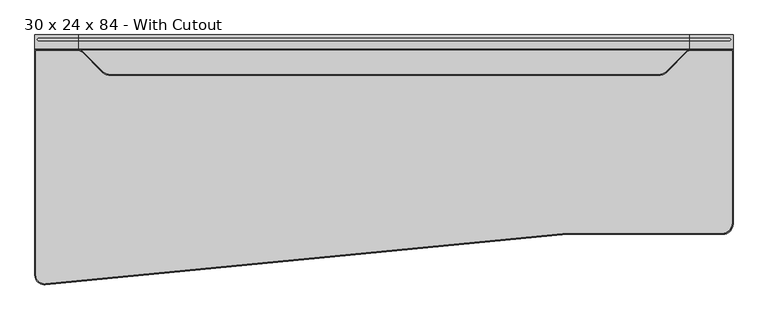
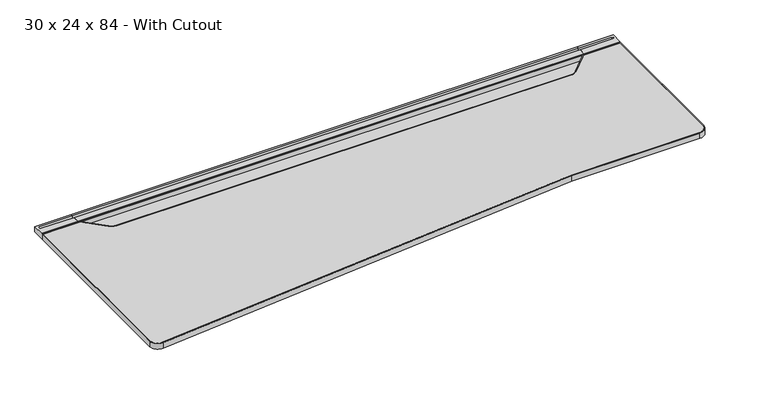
"""IFC4 building model written with IfcOpenShell, lengths in millimetres: furniture geometry, Steelcase - C Scape - Desking - Left Hand Transition - Non Sliding : 30 x 24 x 84 - With Cutout."""

from ifc_helpers import new_model, si_unit, point, frame, frame_2d, origin, place, context, project, spatial, polyline, circle_curve, trimmed, segment, composite_curve, outline, extrude, faceted_brep, source, transform, mapped, element, save
from ifc_brep_helpers import plane_surface, cylinder_surface, revolved_surface, advanced_brep


def furniture_30_x_24_x_84_with_cutout_60a7b00e(model_context):
    return source(origin(), model_context, "Body", "SolidModel", [
        advanced_brep(
        [(-173.3677124, -45.3135132, 703.3768), (-173.3677124, -4.0331902, 703.3768), (-173.3677124, -3.2278472, 705.1038636), (-173.3677124, 0.0, 705.1038636), (-173.3677124, 0.0, 725.932), (-173.3677124, -8.5111084, 725.932), (-173.3677124, -8.5111084, 713.486), (-173.3677124, -19.3290527, 713.486), (-173.3677124, -19.3290527, 725.932), (-173.3677124, -42.7750923, 725.932), (-173.3677124, -42.7750923, 722.4268341), (-173.3677124, -45.3135132, 722.4268341), (-306.3875, -45.3135132, 703.3768), (-306.3875, -45.3135132, 722.4268341), (-306.3875, -42.7750923, 722.4268341), (-306.3875, -42.7750923, 725.932), (-306.3875, 0.0, 725.932), (-306.3875, 0.0, 705.1038636), (-306.3875, -3.2278472, 705.1038636), (-306.3875, -4.0331902, 703.3768), (-294.6254272, -19.3290527, 725.932), (-294.6254272, -8.5111084, 725.932), (-294.6254272, -8.5111084, 713.486), (-294.6254272, -19.3290527, 713.486)],
        [
            (0, 1),
            (1, 2),
            (2, 3),
            (3, 4),
            (4, 5),
            (5, 6),
            (6, 7),
            (7, 8),
            (8, 9),
            (9, 10),
            (10, 11),
            (11, 0),
            (12, 13),
            (13, 14),
            (14, 15),
            (15, 16),
            (16, 17),
            (17, 18),
            (18, 19),
            (19, 12),
            (0, 12),
            (19, 1),
            (18, 2),
            (17, 3),
            (16, 4),
            (15, 9),
            (8, 20),
            (20, 21, circle_curve(frame((-294.6254272, -13.9200806, 725.932), z_axis=(0.0, 0.0, -1.0), x_axis=(1.0, 0.0, 0.0)), 5.4089722)),
            (21, 5),
            (14, 10),
            (13, 11),
            (6, 22),
            (22, 23, circle_curve(frame((-294.6254272, -13.9200806, 713.486), z_axis=(0.0, 0.0, 1.0), x_axis=(1.0, 0.0, 0.0)), 5.4089722)),
            (23, 7),
            (21, 22),
            (20, 23),
        ],
        [
            plane_surface(frame((-173.3677124, -45.3135132, 703.3768), z_axis=(1.0, 0.0, 0.0), x_axis=(0.0, 1.0, 0.0))),
            plane_surface(frame((-306.3875, -45.3135132, 703.3768), z_axis=(-1.0, 0.0, 0.0), x_axis=(0.0, -1.0, 0.0))),
            plane_surface(frame((-173.3677124, -45.3135132, 703.3768), z_axis=(0.0, 0.0, -1.0), x_axis=(-1.0, 0.0, 0.0))),
            plane_surface(frame((-173.3677124, -4.0331902, 703.3768), z_axis=(0.0, 0.9063077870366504, -0.4226182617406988), x_axis=(-1.0, 0.0, 0.0))),
            plane_surface(frame((-173.3677124, -3.2278472, 705.1038636), z_axis=(0.0, 0.0, -1.0), x_axis=(-1.0, 0.0, 0.0))),
            plane_surface(frame((-173.3677124, 0.0, 705.1038636), z_axis=(0.0, 1.0, 0.0), x_axis=(-1.0, 0.0, 0.0))),
            plane_surface(frame((-173.3677124, 0.0, 725.932), z_axis=(0.0, 0.0, 1.0), x_axis=(-1.0, 0.0, 0.0))),
            plane_surface(frame((-173.3677124, -42.7750923, 725.932), z_axis=(0.0, -1.0, 0.0), x_axis=(-1.0, 0.0, 0.0))),
            plane_surface(frame((-173.3677124, -42.7750923, 722.4268341), z_axis=(0.0, 0.0, 1.0), x_axis=(-1.0, 0.0, 0.0))),
            plane_surface(frame((-173.3677124, -45.3135132, 722.4268341), z_axis=(0.0, -1.0, 0.0), x_axis=(-1.0, 0.0, 0.0))),
            plane_surface(frame((-294.6254272, -8.5111084, 713.486), z_axis=(0.0, 0.0, 1.0), x_axis=(1.0, 0.0, 0.0))),
            plane_surface(frame((-173.3677124, -8.5111084, 731.2180541), z_axis=(0.0, -1.0, 0.0), x_axis=(0.0, 0.0, -1.0))),
            revolved_surface(polyline([(-289.216455, -13.9200806, 725.932), (-289.216455, -13.9200806, 713.486)]), (-294.6254272, -13.9200806, 713.486), (0.0, 0.0, 1.0)),
            plane_surface(frame((-294.6254272, -19.3290527, 731.2180541), z_axis=(0.0, 1.0, 0.0), x_axis=(0.0, 0.0, -1.0))),
        ],
        [
            (0, [[1, 2, 3, 4, 5, 6, 7, 8, 9, 10, 11, 12]]),
            (1, [[13, 14, 15, 16, 17, 18, 19, 20]]),
            (2, [[-1, 21, -20, 22]]),
            (3, [[-2, -22, -19, 23]]),
            (4, [[-3, -23, -18, 24]]),
            (5, [[-4, -24, -17, 25]]),
            (6, [[-16, 26, -9, 27, 28, 29, -5, -25]]),
            (7, [[-10, -26, -15, 30]]),
            (8, [[-11, -30, -14, 31]]),
            (9, [[-12, -31, -13, -21]]),
            (10, [[32, 33, 34, -7]]),
            (11, [[-32, -6, -29, 35]]),
            (12, [[-33, -35, -28, 36]]),
            (13, [[-34, -36, -27, -8]]),
        ],
    ),
        faceted_brep([(-287.3367368, -565.0752923, 700.7093833), (-273.0616272, -565.0752923, 693.4200291), (-191.6224121, -565.0752923, 693.4200291), (-189.0018699, -565.0752923, 679.3263935), (-173.3677124, -565.0752923, 679.3263935), (-173.3677124, -565.0752923, 703.3768), (-287.3367368, -565.0752923, 703.3768), (-287.3367368, -4.0331902, 700.7093833), (-287.3367368, -4.0331902, 703.3768), (-173.3677124, -4.0331902, 703.3768), (-173.3677124, -4.0331902, 629.3866), (-179.7161653, -4.0331902, 629.3866), (-191.6224121, -4.0331902, 693.4200291), (-273.0616272, -4.0331902, 693.4200291), (-179.7161653, -364.1172546, 629.3866), (-186.8365949, -376.5599397, 667.6812472), (-173.3677124, -364.1172546, 629.3866), (-173.3677124, -376.5599397, 667.6812472)], [[[0, 1, 2, 3, 4, 5, 6]], [[7, 8, 9, 10, 11, 12, 13]], [[1, 0, 7, 13]], [[2, 1, 13, 12]], [[12, 11, 14, 15, 3, 2]], [[11, 10, 16, 14]], [[10, 9, 5, 4, 17, 16]], [[6, 5, 9, 8]], [[0, 6, 8, 7]], [[15, 17, 4, 3]], [[17, 15, 14, 16]]]),
        extrude(outline(composite_curve([segment(polyline([(-293.5216187, 657.3775839), (-559.0022133, 680.1371551)]), True, "CONTINUOUS"), segment(trimmed(circle_curve(frame_2d((-558.7581271, 682.9843154)), 2.8576039), [point((-559.0022133, 680.1371551))], [point((-561.5383043, 682.3236226))], False, "CARTESIAN"), True, "CONTINUOUS"), segment(polyline([(-561.5383043, 682.3236226), (-566.0887542, 701.4717905), (-557.8334441, 701.4717905), (-557.8334441, 703.3768), (-442.6683806, 703.3768), (-442.6683806, 696.3917953), (-318.2108611, 696.3917953), (-318.2108611, 703.3768), (-293.5216187, 703.3768), (-293.5216187, 657.3775839)]), True, "CONTINUOUS")], self_intersect=False)), frame((877.824, 0.0, 0.0), z_axis=(1.0, 0.0, 0.0), x_axis=(0.0, 1.0, 0.0)), (0.0, 0.0, 1.0), 73.152),
        advanced_brep(
        [(1694.1927124, -45.3135132, 703.3768), (1694.1927124, -45.3135132, 722.4268341), (1694.1927124, -42.7750923, 722.4268341), (1694.1927124, -42.7750923, 725.932), (1694.1927124, -19.3290527, 725.932), (1694.1927124, -19.3290527, 713.486), (1694.1927124, -8.5111084, 713.486), (1694.1927124, -8.5111084, 725.932), (1694.1927124, 0.0, 725.932), (1694.1927124, 0.0, 705.1038636), (1694.1927124, -3.2278472, 705.1038636), (1694.1927124, -4.0331902, 703.3768), (1827.2125, -45.3135132, 703.3768), (1827.2125, -4.0331902, 703.3768), (1827.2125, -3.2278472, 705.1038636), (1827.2125, 0.0, 705.1038636), (1827.2125, 0.0, 725.932), (1827.2125, -42.7750923, 725.932), (1827.2125, -42.7750923, 722.4268341), (1827.2125, -45.3135132, 722.4268341), (1815.4504272, -8.5111084, 725.932), (1815.4504272, -19.3290527, 725.932), (1815.4504272, -19.3290527, 713.486), (1815.4504272, -8.5111084, 713.486)],
        [
            (0, 1),
            (1, 2),
            (2, 3),
            (3, 4),
            (4, 5),
            (5, 6),
            (6, 7),
            (7, 8),
            (8, 9),
            (9, 10),
            (10, 11),
            (11, 0),
            (12, 13),
            (13, 14),
            (14, 15),
            (15, 16),
            (16, 17),
            (17, 18),
            (18, 19),
            (19, 12),
            (11, 13),
            (12, 0),
            (10, 14),
            (9, 15),
            (8, 16),
            (7, 20),
            (20, 21, circle_curve(frame((1815.4504272, -13.9200806, 725.932), z_axis=(0.0, 0.0, -1.0), x_axis=(-1.0, 0.0, 0.0)), 5.4089722)),
            (21, 4),
            (3, 17),
            (2, 18),
            (1, 19),
            (5, 22),
            (22, 23, circle_curve(frame((1815.4504272, -13.9200806, 713.486), z_axis=(0.0, 0.0, 1.0), x_axis=(-1.0, 0.0, 0.0)), 5.4089722)),
            (23, 6),
            (23, 20),
            (22, 21),
        ],
        [
            plane_surface(frame((1694.1927124, -45.3135132, 703.3768), z_axis=(-1.0, 0.0, 0.0), x_axis=(0.0, 1.0, 0.0))),
            plane_surface(frame((1827.2125, -45.3135132, 703.3768), z_axis=(1.0, 0.0, 0.0), x_axis=(0.0, -1.0, 0.0))),
            plane_surface(frame((1694.1927124, -45.3135132, 703.3768), z_axis=(0.0, 0.0, -1.0), x_axis=(1.0, 0.0, 0.0))),
            plane_surface(frame((1694.1927124, -4.0331902, 703.3768), z_axis=(0.0, 0.9063077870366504, -0.4226182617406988), x_axis=(1.0, 0.0, 0.0))),
            plane_surface(frame((1694.1927124, -3.2278472, 705.1038636), z_axis=(0.0, 0.0, -1.0), x_axis=(1.0, 0.0, 0.0))),
            plane_surface(frame((1694.1927124, 0.0, 705.1038636), z_axis=(0.0, 1.0, 0.0), x_axis=(1.0, 0.0, 0.0))),
            plane_surface(frame((1694.1927124, 0.0, 725.932), z_axis=(0.0, 0.0, 1.0), x_axis=(1.0, 0.0, 0.0))),
            plane_surface(frame((1694.1927124, -42.7750923, 725.932), z_axis=(0.0, -1.0, 0.0), x_axis=(1.0, 0.0, 0.0))),
            plane_surface(frame((1694.1927124, -42.7750923, 722.4268341), z_axis=(0.0, 0.0, 1.0), x_axis=(1.0, 0.0, 0.0))),
            plane_surface(frame((1694.1927124, -45.3135132, 722.4268341), z_axis=(0.0, -1.0, 0.0), x_axis=(1.0, 0.0, 0.0))),
            plane_surface(frame((1815.4504272, -8.5111084, 713.486), z_axis=(0.0, 0.0, 1.0), x_axis=(-1.0, 0.0, 0.0))),
            plane_surface(frame((1694.1927124, -8.5111084, 731.2180541), z_axis=(0.0, -1.0, 0.0), x_axis=(0.0, 0.0, -1.0))),
            revolved_surface(polyline([(1810.0414549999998, -13.9200806, 725.932), (1810.0414549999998, -13.9200806, 713.486)]), (1815.4504272, -13.9200806, 713.486), (0.0, 0.0, 1.0)),
            plane_surface(frame((1815.4504272, -19.3290527, 731.2180541), z_axis=(0.0, 1.0, 0.0), x_axis=(0.0, 0.0, -1.0))),
        ],
        [
            (0, [[1, 2, 3, 4, 5, 6, 7, 8, 9, 10, 11, 12]]),
            (1, [[13, 14, 15, 16, 17, 18, 19, 20]]),
            (2, [[21, -13, 22, -12]]),
            (3, [[23, -14, -21, -11]]),
            (4, [[24, -15, -23, -10]]),
            (5, [[25, -16, -24, -9]]),
            (6, [[-25, -8, 26, 27, 28, -4, 29, -17]]),
            (7, [[30, -18, -29, -3]]),
            (8, [[31, -19, -30, -2]]),
            (9, [[-22, -20, -31, -1]]),
            (10, [[-6, 32, 33, 34]]),
            (11, [[35, -26, -7, -34]]),
            (12, [[36, -27, -35, -33]]),
            (13, [[-5, -28, -36, -32]]),
        ],
    ),
        faceted_brep([(1808.1617368, -565.0752923, 700.7093833), (1808.1617368, -565.0752923, 703.3768), (1694.1927124, -565.0752923, 703.3768), (1694.1927124, -565.0752923, 679.3263935), (1709.8268699, -565.0752923, 679.3263935), (1712.4474121, -565.0752923, 693.4200291), (1793.8866272, -565.0752923, 693.4200291), (1808.1617368, -4.0331902, 700.7093833), (1793.8866272, -4.0331902, 693.4200291), (1712.4474121, -4.0331902, 693.4200291), (1700.5411653, -4.0331902, 629.3866), (1694.1927124, -4.0331902, 629.3866), (1694.1927124, -4.0331902, 703.3768), (1808.1617368, -4.0331902, 703.3768), (1707.6615949, -376.5599397, 667.6812472), (1700.5411653, -364.1172546, 629.3866), (1694.1927124, -364.1172546, 629.3866), (1694.1927124, -376.5599397, 667.6812472)], [[[0, 1, 2, 3, 4, 5, 6]], [[7, 8, 9, 10, 11, 12, 13]], [[6, 8, 7, 0]], [[5, 9, 8, 6]], [[9, 5, 4, 14, 15, 10]], [[10, 15, 16, 11]], [[11, 16, 17, 3, 2, 12]], [[1, 13, 12, 2]], [[0, 7, 13, 1]], [[14, 4, 3, 17]], [[17, 16, 15, 14]]]),
        extrude(outline(polyline([(-8.5111084, 725.932), (0.0, 725.932), (0.0, 705.1038636), (-3.2278472, 705.1038636), (-4.0331902, 703.3768), (-45.3135132, 703.3768), (-45.3135132, 722.4268341), (-42.7750923, 722.4268341), (-42.7750923, 725.932), (-19.3290527, 725.932), (-19.3290527, 713.486), (-8.5111084, 713.486), (-8.5111084, 725.932)])), frame((-173.3677124, 0.0, 0.0), z_axis=(1.0, 0.0, 0.0), x_axis=(0.0, 1.0, 0.0)), (0.0, 0.0, 1.0), 1867.5604248),
        extrude(outline(polyline([(1694.1927124, -4.0331902), (1694.1927124, -293.5216187), (-173.3677124, -293.5216187), (-173.3677124, -4.0331902), (1694.1927124, -4.0331902)])), frame((0.0, 0.0, 629.3866), z_axis=(0.0, 0.0, 1.0), x_axis=(1.0, 0.0, 0.0)), (0.0, 0.0, 1.0), 73.9902),
        extrude(outline(composite_curve([segment(polyline([(-303.3395, -48.3660689), (-173.9627392, -48.3660689)]), True, "CONTINUOUS"), segment(trimmed(circle_curve(frame_2d((-173.9627392, -64.9605938)), 16.5945249), [point((-173.9627392, -48.3660689))], [point((-162.2286419, -53.2264889))], False, "CARTESIAN"), True, "CONTINUOUS"), segment(polyline([(-162.2286419, -53.2264889), (-102.1005392, -113.3545523)]), True, "CONTINUOUS"), segment(trimmed(circle_curve(frame_2d((-75.1597796, -86.4137752)), 38.1), [point((-102.1005392, -113.3545523))], [point((-75.1597796, -124.5137752))], True, "CARTESIAN"), True, "CONTINUOUS"), segment(polyline([(-75.1597796, -124.5137752), (1599.1598212, -124.5137752)]), True, "CONTINUOUS"), segment(trimmed(circle_curve(frame_2d((1599.1598212, -86.4137752)), 38.1), [point((1599.1598212, -124.5137752))], [point((1626.1005905, -113.3545426))], True, "CARTESIAN"), True, "CONTINUOUS"), segment(polyline([(1626.1005905, -113.3545426), (1687.7230199, -51.7321087)]), True, "CONTINUOUS"), segment(trimmed(circle_curve(frame_2d((1695.45, -58.9180007)), 10.5519318), [point((1687.7230199, -51.7321087))], [point((1695.45, -48.3660689))], False, "CARTESIAN"), True, "CONTINUOUS"), segment(polyline([(1695.45, -48.3660689), (1824.1645, -48.3660689), (1824.1645, -574.7990234)]), True, "CONTINUOUS"), segment(trimmed(circle_curve(frame_2d((1792.4145, -574.7990234)), 31.75), [point((1824.1645, -574.7990234))], [point((1792.4145, -606.5490234))], False, "CARTESIAN"), True, "CONTINUOUS"), segment(polyline([(1792.4145, -606.5490234), (1320.7997595, -606.5490234), (-274.9363432, -759.8823654)]), True, "CONTINUOUS"), segment(trimmed(circle_curve(frame_2d((-277.9395, -734.6605286)), 25.4), [point((-274.9363432, -759.8823654))], [point((-303.3395, -734.6605286))], False, "CARTESIAN"), True, "CONTINUOUS"), segment(polyline([(-303.3395, -734.6605286), (-303.3395, -48.3660689)]), True, "CONTINUOUS")], self_intersect=False)), frame((0.0, 0.0, 703.3768), z_axis=(0.0, 0.0, 1.0), x_axis=(1.0, 0.0, 0.0)), (0.0, 0.0, 1.0), 20.5232),
        advanced_brep(
        [(1824.1625156, -577.8497165, 703.3768), (1795.4632087, -606.5490234, 703.3768), (1795.4632087, -606.5490234, 723.9), (1824.1625156, -577.8497165, 723.9), (1827.2134922, -577.8497165, 723.9), (1795.4632087, -609.6, 723.9), (1795.4632087, -609.6, 703.3768), (1827.2134922, -577.8497165, 703.3768), (1824.1625156, -48.3666358, 723.9), (1824.1625156, -48.3666358, 703.3768), (1827.2134922, -45.3156593, 703.3768), (1827.2134922, -45.3156593, 723.9), (1695.45, -48.3666358, 723.9), (1695.45, -48.3666358, 703.3768), (1695.45, -45.3156593, 703.3768), (1695.45, -45.3156593, 723.9), (1687.7234351, -51.7324948, 703.3768), (1687.7234351, -51.7324948, 723.9), (1685.4892627, -49.6547721, 723.9), (1685.4892627, -49.6547721, 703.3768), (1624.9189809, -114.5369541, 723.9), (1624.9189809, -114.5369541, 703.3768), (1622.7616146, -112.3795879, 703.3768), (1622.7616146, -112.3795879, 723.9), (1600.8314365, -124.5143421, 703.3768), (1600.8314365, -124.5143421, 723.9), (1600.8314365, -121.4633656, 723.9), (1600.8314365, -121.4633656, 703.3768), (-76.8314053, -124.5143421, 723.9), (-76.8314053, -124.5143421, 703.3768), (-76.8314053, -121.4633656, 703.3768), (-76.8314053, -121.4633656, 723.9), (-100.9189219, -114.5369706, 703.3768), (-100.9189219, -114.5369706, 723.9), (-98.7615564, -112.3796037, 723.9), (-98.7615564, -112.3796037, 703.3768), (-163.6460683, -51.8098652, 723.9), (-163.6460683, -51.8098652, 703.3768), (-161.4887028, -49.6524983, 703.3768), (-161.4887028, -49.6524983, 723.9), (-173.3676827, -48.3666358, 703.3768), (-173.3676827, -48.3666358, 723.9), (-173.5183305, -45.3156593, 723.9), (-173.5183305, -45.3156593, 703.3768), (-303.338933, -48.3666358, 723.9), (-303.338933, -48.3666358, 703.3768), (-306.3899096, -45.3156593, 703.3768), (-306.3899096, -45.3156593, 723.9), (-303.338933, -734.6605286, 723.9), (-303.338933, -734.6605286, 703.3768), (-306.3899096, -734.6605286, 703.3768), (-306.3899096, -734.6605286, 723.9), (-274.9364102, -759.8818024, 703.3768), (-274.9364102, -759.8818024, 723.9), (-274.5756795, -762.9113785, 723.9), (-274.5756795, -762.9113785, 703.3768), (1320.941217, -609.6, 723.9), (1320.7949707, -606.5490234, 723.9), (1320.7949707, -606.5490234, 703.3768), (1320.941217, -609.6, 703.3768)],
        [
            (0, 1, circle_curve(frame((1795.4632087, -577.8497165, 703.3768), z_axis=(0.0, 0.0, -1.0), x_axis=(0.0, -1.0, 0.0)), 28.6993069)),
            (1, 2),
            (2, 3, circle_curve(frame((1795.4632087, -577.8497165, 723.9), z_axis=(0.0, 0.0, 1.0), x_axis=(0.0, -1.0, 0.0)), 28.6993069)),
            (3, 0),
            (4, 5, circle_curve(frame((1795.4632087, -577.8497165, 723.9), z_axis=(0.0, 0.0, -1.0), x_axis=(0.0, -1.0, 0.0)), 31.7502835)),
            (5, 6),
            (6, 7, circle_curve(frame((1795.4632087, -577.8497165, 703.3768), z_axis=(0.0, 0.0, 1.0), x_axis=(0.0, -1.0, 0.0)), 31.7502835)),
            (7, 4),
            (3, 8),
            (8, 9),
            (9, 0),
            (7, 10),
            (10, 11),
            (11, 4),
            (8, 12),
            (12, 13),
            (13, 9),
            (10, 14),
            (14, 15),
            (15, 11),
            (16, 13, circle_curve(frame((1695.45, -58.9180007, 703.3768), z_axis=(0.0, 0.0, -1.0), x_axis=(0.0, 1.0, 0.0)), 10.5513648)),
            (12, 17, circle_curve(frame((1695.45, -58.9180007, 723.9), z_axis=(0.0, 0.0, 1.0), x_axis=(0.0, 1.0, 0.0)), 10.5513648)),
            (17, 16),
            (18, 15, circle_curve(frame((1695.45, -58.9180007, 723.9), z_axis=(0.0, 0.0, -1.0), x_axis=(0.0, 1.0, 0.0)), 13.6023414)),
            (14, 19, circle_curve(frame((1695.45, -58.9180007, 703.3768), z_axis=(0.0, 0.0, 1.0), x_axis=(0.0, 1.0, 0.0)), 13.6023414)),
            (19, 18),
            (17, 20),
            (20, 21),
            (21, 16),
            (19, 22),
            (22, 23),
            (23, 18),
            (24, 21, circle_curve(frame((1600.8314365, -90.4494114, 703.3768), z_axis=(0.0, 0.0, 1.0), x_axis=(0.7071068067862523, -0.7071067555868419, 0.0)), 34.0649308)),
            (20, 25, circle_curve(frame((1600.8314365, -90.4494114, 723.9), z_axis=(0.0, 0.0, -1.0), x_axis=(0.7071068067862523, -0.7071067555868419, 0.0)), 34.0649308)),
            (25, 24),
            (26, 23, circle_curve(frame((1600.8314365, -90.4494114, 723.9), z_axis=(0.0, 0.0, 1.0), x_axis=(0.7071068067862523, -0.7071067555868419, 0.0)), 31.0139542)),
            (22, 27, circle_curve(frame((1600.8314365, -90.4494114, 703.3768), z_axis=(0.0, 0.0, -1.0), x_axis=(0.7071068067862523, -0.7071067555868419, 0.0)), 31.0139542)),
            (27, 26),
            (25, 28),
            (28, 29),
            (29, 24),
            (27, 30),
            (30, 31),
            (31, 26),
            (32, 29, circle_curve(frame((-76.8314053, -90.4494383, 703.3768), z_axis=(0.0, 0.0, 1.0), x_axis=(0.0, -1.0, 0.0)), 34.0649039)),
            (28, 33, circle_curve(frame((-76.8314053, -90.4494383, 723.9), z_axis=(0.0, 0.0, -1.0), x_axis=(0.0, -1.0, 0.0)), 34.0649039)),
            (33, 32),
            (34, 31, circle_curve(frame((-76.8314053, -90.4494383, 723.9), z_axis=(0.0, 0.0, 1.0), x_axis=(0.0, -1.0, 0.0)), 31.0139273)),
            (30, 35, circle_curve(frame((-76.8314053, -90.4494383, 703.3768), z_axis=(0.0, 0.0, -1.0), x_axis=(0.0, -1.0, 0.0)), 31.0139273)),
            (35, 34),
            (33, 36),
            (36, 37),
            (37, 32),
            (35, 38),
            (38, 39),
            (39, 34),
            (40, 37, circle_curve(frame((-172.1168496, -60.280652, 703.3768), z_axis=(0.0, 0.0, -1.0), x_axis=(0.7071065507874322, 0.7071070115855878, 0.0)), 11.9794977)),
            (36, 41, circle_curve(frame((-172.1168496, -60.280652, 723.9), z_axis=(0.0, 0.0, 1.0), x_axis=(0.7071065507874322, 0.7071070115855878, 0.0)), 11.9794977)),
            (41, 40),
            (42, 39, circle_curve(frame((-172.1168496, -60.280652, 723.9), z_axis=(0.0, 0.0, -1.0), x_axis=(0.7071065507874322, 0.7071070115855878, 0.0)), 15.0304743)),
            (38, 43, circle_curve(frame((-172.1168496, -60.280652, 703.3768), z_axis=(0.0, 0.0, 1.0), x_axis=(0.7071065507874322, 0.7071070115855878, 0.0)), 15.0304743)),
            (43, 42),
            (41, 44),
            (44, 45),
            (45, 40),
            (43, 46),
            (46, 47),
            (47, 42),
            (44, 48),
            (48, 49),
            (49, 45),
            (46, 50),
            (50, 51),
            (51, 47),
            (52, 49, circle_curve(frame((-277.9395, -734.6605286, 703.3768), z_axis=(0.0, 0.0, -1.0), x_axis=(-1.0, 0.0, 0.0)), 25.399433)),
            (48, 53, circle_curve(frame((-277.9395, -734.6605286, 723.9), z_axis=(0.0, 0.0, 1.0), x_axis=(-1.0, 0.0, 0.0)), 25.399433)),
            (53, 52),
            (54, 51, circle_curve(frame((-277.9395, -734.6605286, 723.9), z_axis=(0.0, 0.0, -1.0), x_axis=(-1.0, 0.0, 0.0)), 28.4504096)),
            (50, 55, circle_curve(frame((-277.9395, -734.6605286, 703.3768), z_axis=(0.0, 0.0, 1.0), x_axis=(-1.0, 0.0, 0.0)), 28.4504096)),
            (55, 54),
            (54, 56),
            (56, 5),
            (57, 53),
            (2, 57),
            (57, 58),
            (58, 52),
            (59, 55),
            (6, 59),
            (58, 1),
            (59, 56),
        ],
        [
            revolved_surface(polyline([(1795.4632087, -606.5490234, 723.9), (1795.4632087, -606.5490234, 703.3768)]), (1795.4632087, -577.8497165, 0.0), (0.0, 0.0, 1.0)),
            cylinder_surface(frame((1795.4632087, -577.8497165, 0.0), z_axis=(0.0, 0.0, 1.0), x_axis=(0.0, -1.0, 0.0)), 31.7502835),
            plane_surface(frame((1824.1625156, -577.8497165, 723.9), z_axis=(-1.0, 0.0, 0.0), x_axis=(0.0, 1.0, 0.0))),
            plane_surface(frame((1827.2134922, -577.8497165, 703.3768), z_axis=(1.0, 0.0, 0.0), x_axis=(0.0, 1.0, 0.0))),
            plane_surface(frame((1824.1625156, -48.3666358, 723.9), z_axis=(0.0, -1.0, 0.0), x_axis=(-1.0, 0.0, 0.0))),
            plane_surface(frame((1827.2134922, -45.3156593, 703.3768), z_axis=(0.0, 1.0, 0.0), x_axis=(-1.0, 0.0, 0.0))),
            revolved_surface(polyline([(1695.45, -48.3666359, 723.9), (1695.45, -48.3666359, 703.3768)]), (1695.45, -58.9180007, 0.0), (0.0, 0.0, 1.0)),
            cylinder_surface(frame((1695.45, -58.9180007, 0.0), z_axis=(0.0, 0.0, 1.0), x_axis=(0.0, 1.0, 0.0)), 13.6023414),
            plane_surface(frame((1687.7234354, -51.7324951, 723.9), z_axis=(0.707106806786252, -0.7071067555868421, 0.0), x_axis=(-0.7071067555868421, -0.707106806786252, 0.0))),
            plane_surface(frame((1685.4877928, -49.6534052, 703.3768), z_axis=(-0.7071068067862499, 0.7071067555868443, 0.0), x_axis=(-0.7071067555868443, -0.7071068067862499, 0.0))),
            cylinder_surface(frame((1600.8314365, -90.4494114, 0.0), z_axis=(0.0, 0.0, -1.0), x_axis=(0.7071068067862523, -0.7071067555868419, 0.0)), 34.0649308),
            revolved_surface(polyline([(1622.7616146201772, -112.37958793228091, 703.3768), (1622.7616146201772, -112.37958793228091, 723.9)]), (1600.8314365, -90.4494114, 0.0), (0.0, 0.0, -1.0)),
            plane_surface(frame((1600.8314365, -124.5143421, 723.9), z_axis=(0.0, -1.0, 0.0), x_axis=(-1.0, 0.0, 0.0))),
            plane_surface(frame((1600.8314365, -121.4633656, 703.3768), z_axis=(0.0, 1.0, 0.0), x_axis=(-1.0, 0.0, 0.0))),
            cylinder_surface(frame((-76.8314053, -90.4494383, 0.0), z_axis=(0.0, 0.0, -1.0), x_axis=(0.0, -1.0, 0.0)), 34.0649039),
            revolved_surface(polyline([(-76.8314053, -121.4633656, 703.3768), (-76.8314053, -121.4633656, 723.9)]), (-76.8314053, -90.4494383, 0.0), (0.0, 0.0, -1.0)),
            plane_surface(frame((-100.9189219, -114.5369706, 723.9), z_axis=(-0.707106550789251, -0.7071070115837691, 0.0), x_axis=(-0.7071070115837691, 0.707106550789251, 0.0))),
            plane_surface(frame((-98.7615564, -112.3796037, 703.3768), z_axis=(0.707106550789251, 0.7071070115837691, 0.0), x_axis=(-0.7071070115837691, 0.707106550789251, 0.0))),
            revolved_surface(polyline([(-163.64606830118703, -51.80986518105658, 723.9), (-163.64606830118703, -51.80986518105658, 703.3768)]), (-172.1168496, -60.280652, 0.0), (0.0, 0.0, 1.0)),
            cylinder_surface(frame((-172.1168496, -60.280652, 0.0), z_axis=(0.0, 0.0, 1.0), x_axis=(0.7071065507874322, 0.7071070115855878, 0.0)), 15.0304743),
            plane_surface(frame((-173.3676827, -48.3666358, 723.9), z_axis=(0.0, -1.0, 0.0), x_axis=(-1.0, 0.0, 0.0))),
            plane_surface(frame((-173.5183305, -45.3156593, 703.3768), z_axis=(0.0, 1.0, 0.0), x_axis=(-1.0, 0.0, 0.0))),
            plane_surface(frame((-303.338933, -48.3666358, 723.9), z_axis=(1.0, 0.0, 0.0), x_axis=(0.0, -1.0, 0.0))),
            plane_surface(frame((-306.3899096, -45.3156593, 703.3768), z_axis=(-1.0, 0.0, 0.0), x_axis=(0.0, -1.0, 0.0))),
            revolved_surface(polyline([(-303.338933, -734.6605286, 723.9), (-303.338933, -734.6605286, 703.3768)]), (-277.9395, -734.6605286, 0.0), (0.0, 0.0, 1.0)),
            cylinder_surface(frame((-277.9395, -734.6605286, 0.0), z_axis=(0.0, 0.0, 1.0), x_axis=(-1.0, 0.0, 0.0)), 28.4504096),
            plane_surface(frame((-274.5755864, -762.9121602, 723.9), z_axis=(0.0, 0.0, 1.0), x_axis=(0.9954151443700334, 0.09564878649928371, 0.0))),
            plane_surface(frame((-274.9364102, -759.8818023, 723.9), z_axis=(-0.09564878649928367, 0.9954151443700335, 0.0), x_axis=(0.9954151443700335, 0.09564878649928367, 0.0))),
            plane_surface(frame((-274.9364102, -759.8818023, 703.3768), z_axis=(0.0, 0.0, -1.0000000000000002), x_axis=(0.9954151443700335, 0.09564878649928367, 0.0))),
            plane_surface(frame((-274.5755864, -762.9121602, 703.3768), z_axis=(0.09564878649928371, -0.9954151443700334, 0.0), x_axis=(0.9954151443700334, 0.09564878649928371, 0.0))),
            plane_surface(frame((1320.7949707, -606.5490234, 723.9), z_axis=(0.0, 1.0, 0.0), x_axis=(1.0, 0.0, 0.0))),
            plane_surface(frame((1320.941217, -609.6, 703.3768), z_axis=(0.0, -1.0, 0.0), x_axis=(1.0, 0.0, 0.0))),
        ],
        [
            (0, [[1, 2, 3, 4]]),
            (1, [[5, 6, 7, 8]]),
            (2, [[-4, 9, 10, 11]]),
            (3, [[-8, 12, 13, 14]]),
            (4, [[-10, 15, 16, 17]]),
            (5, [[-13, 18, 19, 20]]),
            (6, [[21, -16, 22, 23]]),
            (7, [[24, -19, 25, 26]]),
            (8, [[-23, 27, 28, 29]]),
            (9, [[-26, 30, 31, 32]]),
            (10, [[33, -28, 34, 35]]),
            (11, [[36, -31, 37, 38]]),
            (12, [[-35, 39, 40, 41]]),
            (13, [[-38, 42, 43, 44]]),
            (14, [[45, -40, 46, 47]]),
            (15, [[48, -43, 49, 50]]),
            (16, [[-47, 51, 52, 53]]),
            (17, [[-50, 54, 55, 56]]),
            (18, [[57, -52, 58, 59]]),
            (19, [[60, -55, 61, 62]]),
            (20, [[-59, 63, 64, 65]]),
            (21, [[-62, 66, 67, 68]]),
            (22, [[-64, 69, 70, 71]]),
            (23, [[-67, 72, 73, 74]]),
            (24, [[75, -70, 76, 77]]),
            (25, [[78, -73, 79, 80]]),
            (26, [[-74, -78, 81, 82, -5, -14, -20, -24, -32, -36, -44, -48, -56, -60, -68], [83, -76, -69, -63, -58, -51, -46, -39, -34, -27, -22, -15, -9, -3, 84]]),
            (27, [[-77, -83, 85, 86]]),
            (28, [[87, -79, -72, -66, -61, -54, -49, -42, -37, -30, -25, -18, -12, -7, 88], [-71, -75, -86, 89, -1, -11, -17, -21, -29, -33, -41, -45, -53, -57, -65]]),
            (29, [[-80, -87, 90, -81]]),
            (30, [[-85, -84, -2, -89]]),
            (31, [[-90, -88, -6, -82]]),
        ],
    ),
    ])


if __name__ == "__main__":
    model = new_model("IFC4")
    model_context = context("Model", 3, world=origin())
    ifc_project = project(units=[si_unit("LENGTHUNIT", "METRE", prefix="MILLI")], contexts=[model_context])
    site = spatial("IfcSite", under=ifc_project)
    building = spatial("IfcBuilding", under=site)
    placement = place(None, origin())
    furniture_30_x_24_x_84_with_cutout_shape = furniture_30_x_24_x_84_with_cutout_60a7b00e(model_context)
    element("IfcFurniture", 1, ObjectType="Steelcase - C Scape - Desking - Left Hand Transition - Non Sliding : 30 x 24 x 84 - With Cutout", at=placement, inside=building, context=model_context, shape_type="MappedRepresentation", body=[
        mapped(furniture_30_x_24_x_84_with_cutout_shape, transform((0.0, 0.0, 0.0), x_axis=(1.0, 0.0, 0.0), y_axis=(0.0, 1.0, 0.0), z_axis=(0.0, 0.0, 1.0))),
    ])
    save(model, "model.ifc")
